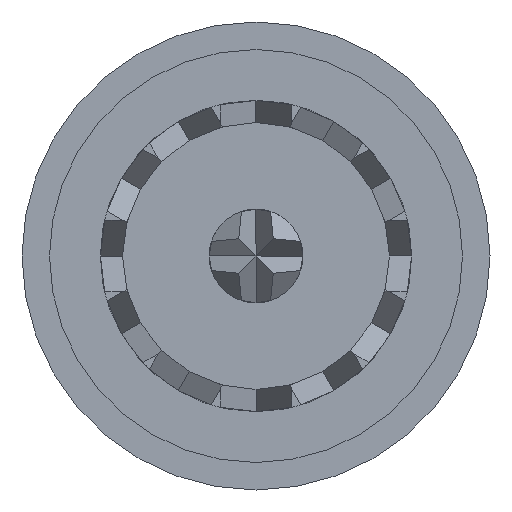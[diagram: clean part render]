
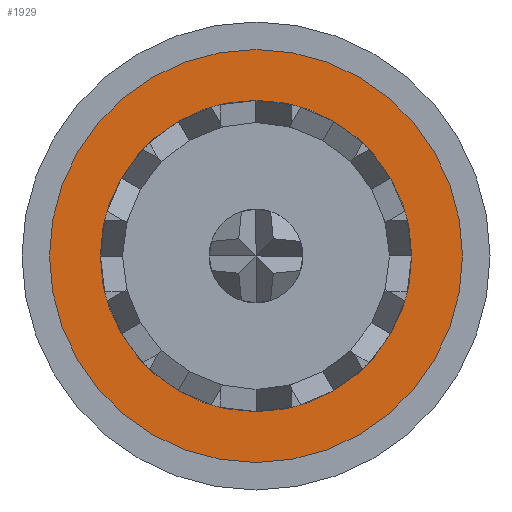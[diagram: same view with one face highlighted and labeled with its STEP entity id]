
A CAD part, left-side view. The second image highlights one B-rep face of the part: STEP entity #1929.
In plain terms, the highlighted planar face has unit normal (-1, 0, 0).
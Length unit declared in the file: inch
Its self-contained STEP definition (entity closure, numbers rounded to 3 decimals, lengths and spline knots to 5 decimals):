
#258 = PLANE ( 'NONE',  #1019 ) ;
#272 = CARTESIAN_POINT ( 'NONE',  ( 0., 0., 0.075 ) ) ;
#381 = DIRECTION ( 'NONE',  ( 0., 0., -1. ) ) ;
#628 = CIRCLE ( 'NONE', #1578, 0.0565 ) ;
#711 = CARTESIAN_POINT ( 'NONE',  ( 0., 0., 0.0565 ) ) ;
#724 = CARTESIAN_POINT ( 'NONE',  ( 0., 0., 0. ) ) ;
#837 = CIRCLE ( 'NONE', #3367, 0.075 ) ;
#947 = VERTEX_POINT ( 'NONE', #272 ) ;
#1012 = CARTESIAN_POINT ( 'NONE',  ( 0., 0., 0. ) ) ;
#1019 = AXIS2_PLACEMENT_3D ( 'NONE', #1696, #4087, #4133 ) ;
#1043 = DIRECTION ( 'NONE',  ( 0., 0., -1. ) ) ;
#1057 = EDGE_CURVE ( 'NONE', #2953, #947, #837, .T. ) ;
#1253 = FACE_OUTER_BOUND ( 'NONE', #1910, .T. ) ;
#1336 = ORIENTED_EDGE ( 'NONE', *, *, #2664, .T. ) ;
#1467 = CARTESIAN_POINT ( 'NONE',  ( 0., 0., 0. ) ) ;
#1578 = AXIS2_PLACEMENT_3D ( 'NONE', #4502, #4160, #1043 ) ;
#1696 = CARTESIAN_POINT ( 'NONE',  ( 0., 0.0565, 0. ) ) ;
#1749 = AXIS2_PLACEMENT_3D ( 'NONE', #1012, #2683, #3741 ) ;
#1820 = CIRCLE ( 'NONE', #1749, 0.0565 ) ;
#1910 = EDGE_LOOP ( 'NONE', ( #3544, #4116 ) ) ;
#1929 = ADVANCED_FACE ( 'NONE', ( #4064, #1253 ), #258, .T. ) ;
#2094 = EDGE_CURVE ( 'NONE', #947, #2953, #3853, .T. ) ;
#2193 = DIRECTION ( 'NONE',  ( 0., 0., -1. ) ) ;
#2205 = CARTESIAN_POINT ( 'NONE',  ( 0., 0., -0.075 ) ) ;
#2512 = DIRECTION ( 'NONE',  ( 1., 0., 0. ) ) ;
#2664 = EDGE_CURVE ( 'NONE', #3383, #4264, #1820, .T. ) ;
#2683 = DIRECTION ( 'NONE',  ( 1., 0., 0. ) ) ;
#2807 = DIRECTION ( 'NONE',  ( 1., 0., 0. ) ) ;
#2953 = VERTEX_POINT ( 'NONE', #2205 ) ;
#3367 = AXIS2_PLACEMENT_3D ( 'NONE', #724, #2807, #381 ) ;
#3383 = VERTEX_POINT ( 'NONE', #711 ) ;
#3544 = ORIENTED_EDGE ( 'NONE', *, *, #1057, .F. ) ;
#3557 = AXIS2_PLACEMENT_3D ( 'NONE', #1467, #2512, #2193 ) ;
#3738 = ORIENTED_EDGE ( 'NONE', *, *, #4391, .T. ) ;
#3741 = DIRECTION ( 'NONE',  ( 0., 0., -1. ) ) ;
#3853 = CIRCLE ( 'NONE', #3557, 0.075 ) ;
#3953 = EDGE_LOOP ( 'NONE', ( #3738, #1336 ) ) ;
#4064 = FACE_BOUND ( 'NONE', #3953, .T. ) ;
#4087 = DIRECTION ( 'NONE',  ( -1., 0., 0. ) ) ;
#4116 = ORIENTED_EDGE ( 'NONE', *, *, #2094, .F. ) ;
#4133 = DIRECTION ( 'NONE',  ( 0., 0., 1. ) ) ;
#4160 = DIRECTION ( 'NONE',  ( 1., 0., 0. ) ) ;
#4264 = VERTEX_POINT ( 'NONE', #4408 ) ;
#4391 = EDGE_CURVE ( 'NONE', #4264, #3383, #628, .T. ) ;
#4408 = CARTESIAN_POINT ( 'NONE',  ( 0., 0., -0.0565 ) ) ;
#4502 = CARTESIAN_POINT ( 'NONE',  ( 0., 0., 0. ) ) ;
